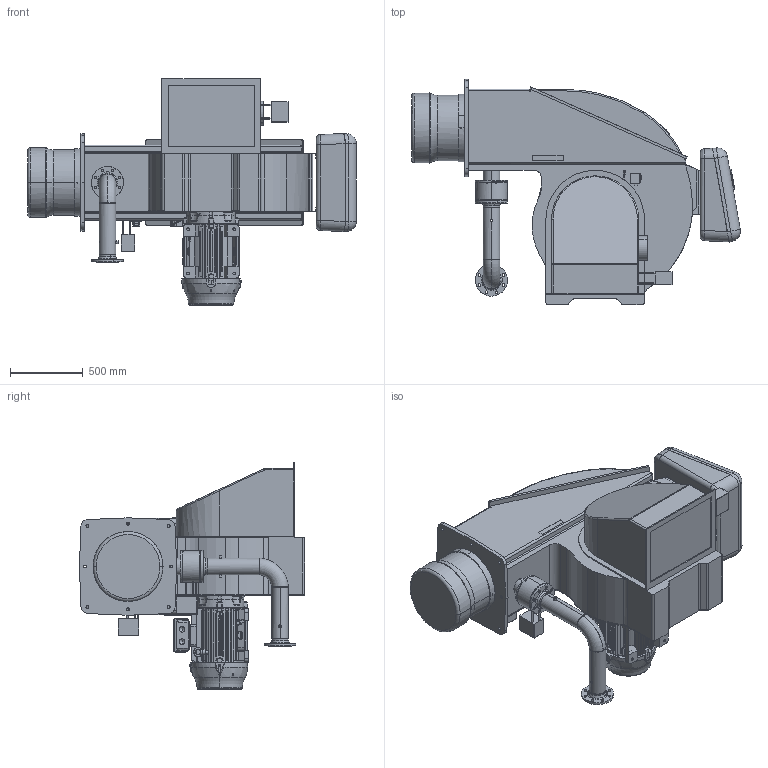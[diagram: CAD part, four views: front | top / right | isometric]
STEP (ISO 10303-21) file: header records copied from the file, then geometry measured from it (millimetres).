
FILE_DESCRIPTION (( 'STEP AP203' ), '1' );
FILE_NAME ('RGB-M-1350-3DModel.STEP', '2025-11-26T08:40:12', ( '' ), ( '' ), 'SwSTEP 2.0', 'SolidWorks 2020', '' );
FILE_SCHEMA (( 'CONFIG_CONTROL_DESIGN' ));
Products named in the file (1): RGB-M-1350-3DModel
Bounding box: 2263.39 x 1550.6 x 1558.26 mm (x, y, z)
Surface area: 17118131 mm2 (no closed solid volume)
Topology: 0 solids, 239 shells, 5578 faces, 14908 edges, 9876 vertices
Faces by surface type: plane 1984, cylinder 1930, bspline 1122, cone 420, torus 106, sphere 16
Entity records: 308651 total; most frequent: CARTESIAN_POINT 202150, ORIENTED_EDGE 29094, EDGE_CURVE 14868, B_SPLINE_CURVE_WITH_KNOTS 14351, VERTEX_POINT 9876, DIRECTION 9388, EDGE_LOOP 6177, FACE_OUTER_BOUND 5578
